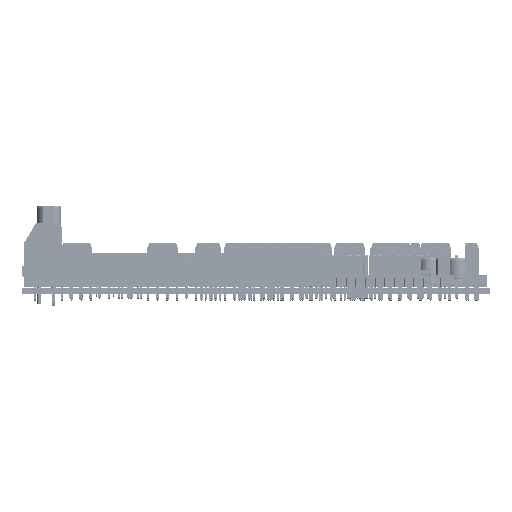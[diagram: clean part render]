
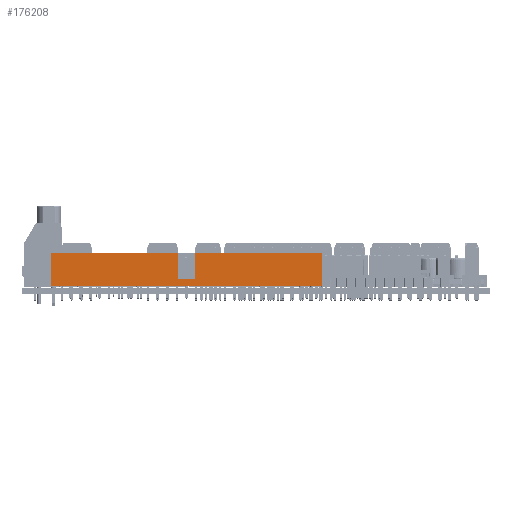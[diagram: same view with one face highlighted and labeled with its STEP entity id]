
A CAD part, left-side view. The second image highlights one B-rep face of the part: STEP entity #176208.
In plain terms, the highlighted planar face has unit normal (-1, 0, 0) as drawn and (0, -1, 0) by its records, which use the part's own axes.
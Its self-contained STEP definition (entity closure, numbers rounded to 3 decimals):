
#176208 = ADVANCED_FACE('',(#176209),#176223,.T.);
#176209 = FACE_BOUND('',#176210,.T.);
#176210 = EDGE_LOOP('',(#176211,#176246,#176274,#176302,#176330,#176358,
    #176386,#176414));
#176211 = ORIENTED_EDGE('',*,*,#176212,.F.);
#176212 = EDGE_CURVE('',#176213,#176215,#176217,.T.);
#176213 = VERTEX_POINT('',#176214);
#176214 = CARTESIAN_POINT('',(-35.58,-4.425,0.25));
#176215 = VERTEX_POINT('',#176216);
#176216 = CARTESIAN_POINT('',(-35.58,-4.425,9.1));
#176217 = SURFACE_CURVE('',#176218,(#176222,#176234),.PCURVE_S1.);
#176218 = LINE('',#176219,#176220);
#176219 = CARTESIAN_POINT('',(-35.58,-4.425,0.25));
#176220 = VECTOR('',#176221,1.);
#176221 = DIRECTION('',(0.,0.,1.));
#176222 = PCURVE('',#176223,#176228);
#176223 = PLANE('',#176224);
#176224 = AXIS2_PLACEMENT_3D('',#176225,#176226,#176227);
#176225 = CARTESIAN_POINT('',(0.,-4.425,4.675));
#176226 = DIRECTION('',(0.,-1.,0.));
#176227 = DIRECTION('',(0.,0.,-1.));
#176228 = DEFINITIONAL_REPRESENTATION('',(#176229),#176233);
#176229 = LINE('',#176230,#176231);
#176230 = CARTESIAN_POINT('',(4.425,-35.58));
#176231 = VECTOR('',#176232,1.);
#176232 = DIRECTION('',(-1.,0.));
#176233 = ( GEOMETRIC_REPRESENTATION_CONTEXT(2) 
PARAMETRIC_REPRESENTATION_CONTEXT() REPRESENTATION_CONTEXT('2D SPACE',''
  ) );
#176234 = PCURVE('',#176235,#176240);
#176235 = PLANE('',#176236);
#176236 = AXIS2_PLACEMENT_3D('',#176237,#176238,#176239);
#176237 = CARTESIAN_POINT('',(-35.58,0.,4.675));
#176238 = DIRECTION('',(-1.,0.,0.));
#176239 = DIRECTION('',(0.,0.,1.));
#176240 = DEFINITIONAL_REPRESENTATION('',(#176241),#176245);
#176241 = LINE('',#176242,#176243);
#176242 = CARTESIAN_POINT('',(-4.425,-4.425));
#176243 = VECTOR('',#176244,1.);
#176244 = DIRECTION('',(1.,0.));
#176245 = ( GEOMETRIC_REPRESENTATION_CONTEXT(2) 
PARAMETRIC_REPRESENTATION_CONTEXT() REPRESENTATION_CONTEXT('2D SPACE',''
  ) );
#176246 = ORIENTED_EDGE('',*,*,#176247,.T.);
#176247 = EDGE_CURVE('',#176213,#176248,#176250,.T.);
#176248 = VERTEX_POINT('',#176249);
#176249 = CARTESIAN_POINT('',(35.58,-4.425,0.25));
#176250 = SURFACE_CURVE('',#176251,(#176255,#176262),.PCURVE_S1.);
#176251 = LINE('',#176252,#176253);
#176252 = CARTESIAN_POINT('',(-35.58,-4.425,0.25));
#176253 = VECTOR('',#176254,1.);
#176254 = DIRECTION('',(1.,0.,0.));
#176255 = PCURVE('',#176223,#176256);
#176256 = DEFINITIONAL_REPRESENTATION('',(#176257),#176261);
#176257 = LINE('',#176258,#176259);
#176258 = CARTESIAN_POINT('',(4.425,-35.58));
#176259 = VECTOR('',#176260,1.);
#176260 = DIRECTION('',(0.,1.));
#176261 = ( GEOMETRIC_REPRESENTATION_CONTEXT(2) 
PARAMETRIC_REPRESENTATION_CONTEXT() REPRESENTATION_CONTEXT('2D SPACE',''
  ) );
#176262 = PCURVE('',#176263,#176268);
#176263 = PLANE('',#176264);
#176264 = AXIS2_PLACEMENT_3D('',#176265,#176266,#176267);
#176265 = CARTESIAN_POINT('',(0.,0.018,0.25
    ));
#176266 = DIRECTION('',(0.,0.,-1.));
#176267 = DIRECTION('',(0.,-1.,0.));
#176268 = DEFINITIONAL_REPRESENTATION('',(#176269),#176273);
#176269 = LINE('',#176270,#176271);
#176270 = CARTESIAN_POINT('',(4.443,35.58));
#176271 = VECTOR('',#176272,1.);
#176272 = DIRECTION('',(0.,-1.));
#176273 = ( GEOMETRIC_REPRESENTATION_CONTEXT(2) 
PARAMETRIC_REPRESENTATION_CONTEXT() REPRESENTATION_CONTEXT('2D SPACE',''
  ) );
#176274 = ORIENTED_EDGE('',*,*,#176275,.T.);
#176275 = EDGE_CURVE('',#176248,#176276,#176278,.T.);
#176276 = VERTEX_POINT('',#176277);
#176277 = CARTESIAN_POINT('',(35.58,-4.425,9.1));
#176278 = SURFACE_CURVE('',#176279,(#176283,#176290),.PCURVE_S1.);
#176279 = LINE('',#176280,#176281);
#176280 = CARTESIAN_POINT('',(35.58,-4.425,2.6));
#176281 = VECTOR('',#176282,1.);
#176282 = DIRECTION('',(0.,0.,1.));
#176283 = PCURVE('',#176223,#176284);
#176284 = DEFINITIONAL_REPRESENTATION('',(#176285),#176289);
#176285 = LINE('',#176286,#176287);
#176286 = CARTESIAN_POINT('',(2.075,35.58));
#176287 = VECTOR('',#176288,1.);
#176288 = DIRECTION('',(-1.,0.));
#176289 = ( GEOMETRIC_REPRESENTATION_CONTEXT(2) 
PARAMETRIC_REPRESENTATION_CONTEXT() REPRESENTATION_CONTEXT('2D SPACE',''
  ) );
#176290 = PCURVE('',#176291,#176296);
#176291 = PLANE('',#176292);
#176292 = AXIS2_PLACEMENT_3D('',#176293,#176294,#176295);
#176293 = CARTESIAN_POINT('',(35.58,0.,4.675));
#176294 = DIRECTION('',(1.,0.,0.));
#176295 = DIRECTION('',(0.,0.,-1.));
#176296 = DEFINITIONAL_REPRESENTATION('',(#176297),#176301);
#176297 = LINE('',#176298,#176299);
#176298 = CARTESIAN_POINT('',(2.075,-4.425));
#176299 = VECTOR('',#176300,1.);
#176300 = DIRECTION('',(-1.,0.));
#176301 = ( GEOMETRIC_REPRESENTATION_CONTEXT(2) 
PARAMETRIC_REPRESENTATION_CONTEXT() REPRESENTATION_CONTEXT('2D SPACE',''
  ) );
#176302 = ORIENTED_EDGE('',*,*,#176303,.F.);
#176303 = EDGE_CURVE('',#176304,#176276,#176306,.T.);
#176304 = VERTEX_POINT('',#176305);
#176305 = CARTESIAN_POINT('',(2.25,-4.425,9.1));
#176306 = SURFACE_CURVE('',#176307,(#176311,#176318),.PCURVE_S1.);
#176307 = LINE('',#176308,#176309);
#176308 = CARTESIAN_POINT('',(-35.58,-4.425,9.1));
#176309 = VECTOR('',#176310,1.);
#176310 = DIRECTION('',(1.,0.,0.));
#176311 = PCURVE('',#176223,#176312);
#176312 = DEFINITIONAL_REPRESENTATION('',(#176313),#176317);
#176313 = LINE('',#176314,#176315);
#176314 = CARTESIAN_POINT('',(-4.425,-35.58));
#176315 = VECTOR('',#176316,1.);
#176316 = DIRECTION('',(0.,1.));
#176317 = ( GEOMETRIC_REPRESENTATION_CONTEXT(2) 
PARAMETRIC_REPRESENTATION_CONTEXT() REPRESENTATION_CONTEXT('2D SPACE',''
  ) );
#176318 = PCURVE('',#176319,#176324);
#176319 = PLANE('',#176320);
#176320 = AXIS2_PLACEMENT_3D('',#176321,#176322,#176323);
#176321 = CARTESIAN_POINT('',(0.,0.,9.1)
  );
#176322 = DIRECTION('',(0.,0.,1.));
#176323 = DIRECTION('',(0.,1.,0.));
#176324 = DEFINITIONAL_REPRESENTATION('',(#176325),#176329);
#176325 = LINE('',#176326,#176327);
#176326 = CARTESIAN_POINT('',(-4.425,35.58));
#176327 = VECTOR('',#176328,1.);
#176328 = DIRECTION('',(0.,-1.));
#176329 = ( GEOMETRIC_REPRESENTATION_CONTEXT(2) 
PARAMETRIC_REPRESENTATION_CONTEXT() REPRESENTATION_CONTEXT('2D SPACE',''
  ) );
#176330 = ORIENTED_EDGE('',*,*,#176331,.T.);
#176331 = EDGE_CURVE('',#176304,#176332,#176334,.T.);
#176332 = VERTEX_POINT('',#176333);
#176333 = CARTESIAN_POINT('',(2.25,-4.425,2.1));
#176334 = SURFACE_CURVE('',#176335,(#176339,#176346),.PCURVE_S1.);
#176335 = LINE('',#176336,#176337);
#176336 = CARTESIAN_POINT('',(2.25,-4.425,3.388));
#176337 = VECTOR('',#176338,1.);
#176338 = DIRECTION('',(0.,0.,-1.));
#176339 = PCURVE('',#176223,#176340);
#176340 = DEFINITIONAL_REPRESENTATION('',(#176341),#176345);
#176341 = LINE('',#176342,#176343);
#176342 = CARTESIAN_POINT('',(1.288,2.25));
#176343 = VECTOR('',#176344,1.);
#176344 = DIRECTION('',(1.,0.));
#176345 = ( GEOMETRIC_REPRESENTATION_CONTEXT(2) 
PARAMETRIC_REPRESENTATION_CONTEXT() REPRESENTATION_CONTEXT('2D SPACE',''
  ) );
#176346 = PCURVE('',#176347,#176352);
#176347 = PLANE('',#176348);
#176348 = AXIS2_PLACEMENT_3D('',#176349,#176350,#176351);
#176349 = CARTESIAN_POINT('',(2.25,-6.425,2.1));
#176350 = DIRECTION('',(-1.,0.,0.));
#176351 = DIRECTION('',(0.,1.,0.));
#176352 = DEFINITIONAL_REPRESENTATION('',(#176353),#176357);
#176353 = LINE('',#176354,#176355);
#176354 = CARTESIAN_POINT('',(2.,-1.288));
#176355 = VECTOR('',#176356,1.);
#176356 = DIRECTION('',(0.,1.));
#176357 = ( GEOMETRIC_REPRESENTATION_CONTEXT(2) 
PARAMETRIC_REPRESENTATION_CONTEXT() REPRESENTATION_CONTEXT('2D SPACE',''
  ) );
#176358 = ORIENTED_EDGE('',*,*,#176359,.T.);
#176359 = EDGE_CURVE('',#176332,#176360,#176362,.T.);
#176360 = VERTEX_POINT('',#176361);
#176361 = CARTESIAN_POINT('',(-2.25,-4.425,2.1));
#176362 = SURFACE_CURVE('',#176363,(#176367,#176374),.PCURVE_S1.);
#176363 = LINE('',#176364,#176365);
#176364 = CARTESIAN_POINT('',(0.,-4.425,2.1));
#176365 = VECTOR('',#176366,1.);
#176366 = DIRECTION('',(-1.,0.,0.));
#176367 = PCURVE('',#176223,#176368);
#176368 = DEFINITIONAL_REPRESENTATION('',(#176369),#176373);
#176369 = LINE('',#176370,#176371);
#176370 = CARTESIAN_POINT('',(2.575,0.));
#176371 = VECTOR('',#176372,1.);
#176372 = DIRECTION('',(0.,-1.));
#176373 = ( GEOMETRIC_REPRESENTATION_CONTEXT(2) 
PARAMETRIC_REPRESENTATION_CONTEXT() REPRESENTATION_CONTEXT('2D SPACE',''
  ) );
#176374 = PCURVE('',#176375,#176380);
#176375 = PLANE('',#176376);
#176376 = AXIS2_PLACEMENT_3D('',#176377,#176378,#176379);
#176377 = CARTESIAN_POINT('',(0.,-4.425,2.1));
#176378 = DIRECTION('',(0.,0.,1.));
#176379 = DIRECTION('',(0.,1.,0.));
#176380 = DEFINITIONAL_REPRESENTATION('',(#176381),#176385);
#176381 = LINE('',#176382,#176383);
#176382 = CARTESIAN_POINT('',(0.,0.));
#176383 = VECTOR('',#176384,1.);
#176384 = DIRECTION('',(0.,1.));
#176385 = ( GEOMETRIC_REPRESENTATION_CONTEXT(2) 
PARAMETRIC_REPRESENTATION_CONTEXT() REPRESENTATION_CONTEXT('2D SPACE',''
  ) );
#176386 = ORIENTED_EDGE('',*,*,#176387,.T.);
#176387 = EDGE_CURVE('',#176360,#176388,#176390,.T.);
#176388 = VERTEX_POINT('',#176389);
#176389 = CARTESIAN_POINT('',(-2.25,-4.425,9.1));
#176390 = SURFACE_CURVE('',#176391,(#176395,#176402),.PCURVE_S1.);
#176391 = LINE('',#176392,#176393);
#176392 = CARTESIAN_POINT('',(-2.25,-4.425,3.388));
#176393 = VECTOR('',#176394,1.);
#176394 = DIRECTION('',(0.,0.,1.));
#176395 = PCURVE('',#176223,#176396);
#176396 = DEFINITIONAL_REPRESENTATION('',(#176397),#176401);
#176397 = LINE('',#176398,#176399);
#176398 = CARTESIAN_POINT('',(1.288,-2.25));
#176399 = VECTOR('',#176400,1.);
#176400 = DIRECTION('',(-1.,0.));
#176401 = ( GEOMETRIC_REPRESENTATION_CONTEXT(2) 
PARAMETRIC_REPRESENTATION_CONTEXT() REPRESENTATION_CONTEXT('2D SPACE',''
  ) );
#176402 = PCURVE('',#176403,#176408);
#176403 = PLANE('',#176404);
#176404 = AXIS2_PLACEMENT_3D('',#176405,#176406,#176407);
#176405 = CARTESIAN_POINT('',(-2.25,-2.425,2.1));
#176406 = DIRECTION('',(1.,0.,0.));
#176407 = DIRECTION('',(0.,-1.,0.));
#176408 = DEFINITIONAL_REPRESENTATION('',(#176409),#176413);
#176409 = LINE('',#176410,#176411);
#176410 = CARTESIAN_POINT('',(2.,-1.288));
#176411 = VECTOR('',#176412,1.);
#176412 = DIRECTION('',(0.,-1.));
#176413 = ( GEOMETRIC_REPRESENTATION_CONTEXT(2) 
PARAMETRIC_REPRESENTATION_CONTEXT() REPRESENTATION_CONTEXT('2D SPACE',''
  ) );
#176414 = ORIENTED_EDGE('',*,*,#176415,.F.);
#176415 = EDGE_CURVE('',#176215,#176388,#176416,.T.);
#176416 = SURFACE_CURVE('',#176417,(#176421,#176428),.PCURVE_S1.);
#176417 = LINE('',#176418,#176419);
#176418 = CARTESIAN_POINT('',(-35.58,-4.425,9.1));
#176419 = VECTOR('',#176420,1.);
#176420 = DIRECTION('',(1.,0.,0.));
#176421 = PCURVE('',#176223,#176422);
#176422 = DEFINITIONAL_REPRESENTATION('',(#176423),#176427);
#176423 = LINE('',#176424,#176425);
#176424 = CARTESIAN_POINT('',(-4.425,-35.58));
#176425 = VECTOR('',#176426,1.);
#176426 = DIRECTION('',(0.,1.));
#176427 = ( GEOMETRIC_REPRESENTATION_CONTEXT(2) 
PARAMETRIC_REPRESENTATION_CONTEXT() REPRESENTATION_CONTEXT('2D SPACE',''
  ) );
#176428 = PCURVE('',#176319,#176429);
#176429 = DEFINITIONAL_REPRESENTATION('',(#176430),#176434);
#176430 = LINE('',#176431,#176432);
#176431 = CARTESIAN_POINT('',(-4.425,35.58));
#176432 = VECTOR('',#176433,1.);
#176433 = DIRECTION('',(0.,-1.));
#176434 = ( GEOMETRIC_REPRESENTATION_CONTEXT(2) 
PARAMETRIC_REPRESENTATION_CONTEXT() REPRESENTATION_CONTEXT('2D SPACE',''
  ) );
